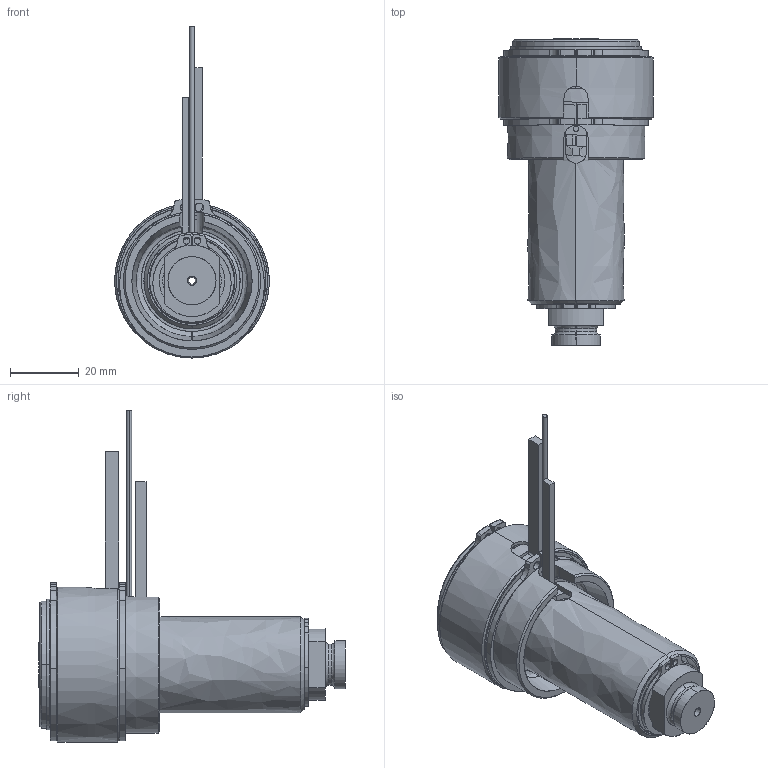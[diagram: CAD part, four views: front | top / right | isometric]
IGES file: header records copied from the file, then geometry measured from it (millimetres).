
Start section: SolidWorks IGES file using analytic representation for surfaces
Global section: file name: C:\Documents and Settings\ws-20\Desktop\TEM\UGBE4501-M-A-3 [Ød-2.0 P-0 ØC-09].IGS; native system: SolidWorks 2012; preprocessor: SolidWorks 2012; author: ws-20; date: 120412.152722; units: millimetre
Bounding box: 45 x 89.25 x 96.65 mm (x, y, z)
Surface area: 37587.7 mm2 (no closed solid volume)
Topology: 0 solids, 0 shells, 165 faces, 3145 edges, 3145 vertices
Faces by surface type: revolution 99, bspline 66
